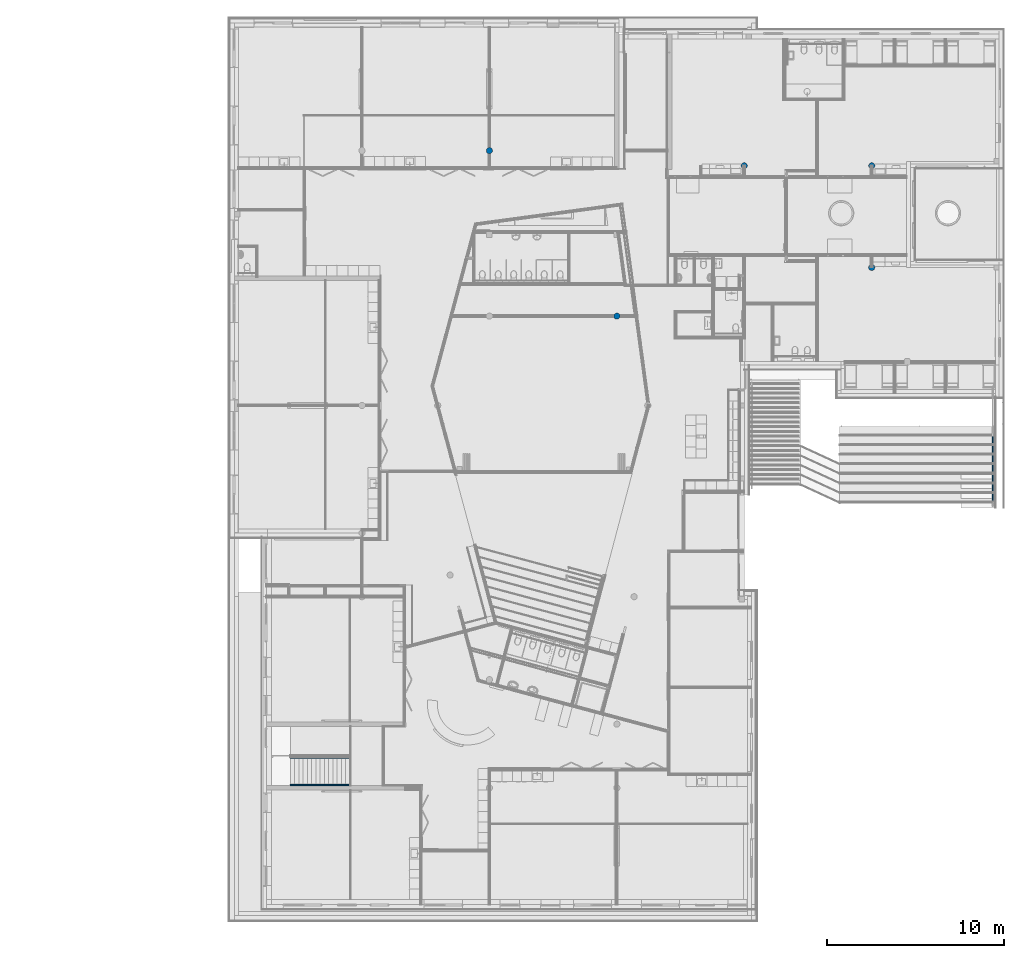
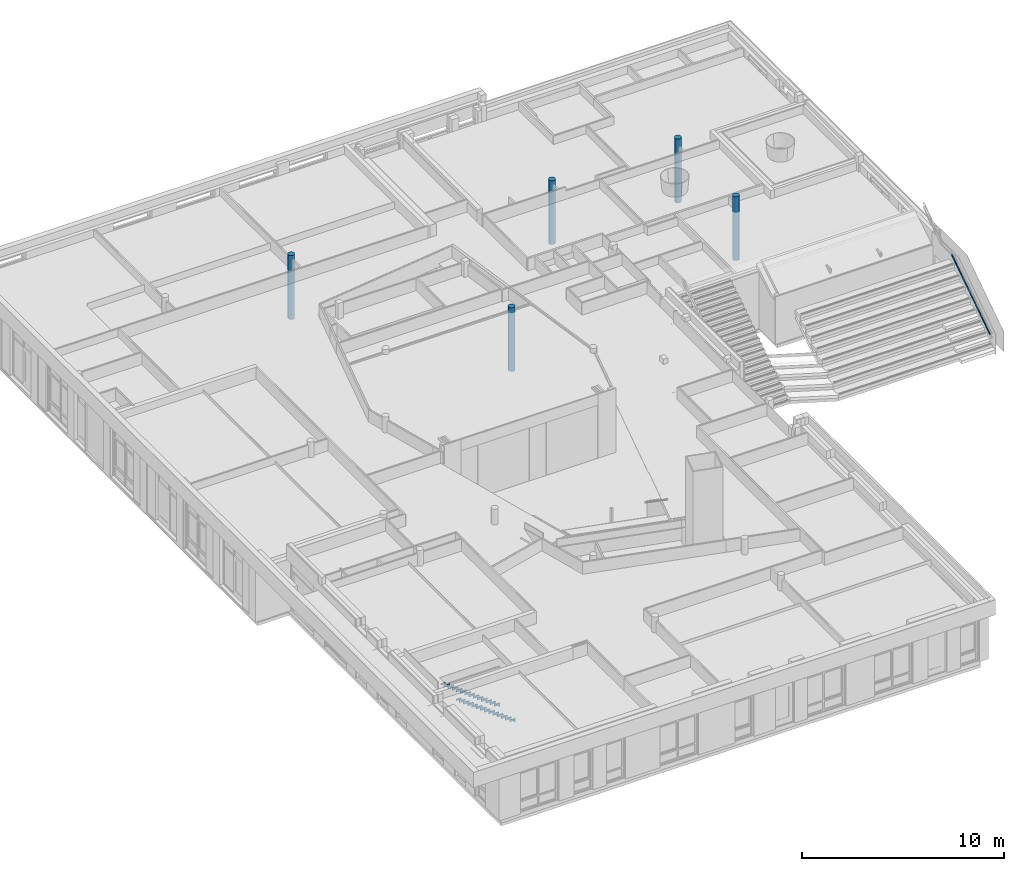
# One storey, part 7 of 167: 5 columns, 3 members, 2 elements without a shape of their own.
"""IFC2X3 building model written with IfcOpenShell, lengths in millimetres."""

from ifc_helpers import new_model, entity, si_unit, converted_unit, derived_unit, money_unit, direction, frame, origin_with_axes, place, context, subcontext, project, spatial, faceted_brep, material, type_object, element, aggregate, save


model = new_model("IFC2X3")

# Units and contexts
model_context = context("Model", 3, precision=0.01, world=origin_with_axes(), true_north=direction((0.0, 1.0)))
plan_context = context("Plan", 3, precision=0.01, world=origin_with_axes(), true_north=direction((0.0, 1.0)))
body_context = subcontext(model_context, "Body", "Model", "MODEL_VIEW")
ifc_project = project(units=[si_unit("LENGTHUNIT", "METRE", prefix="MILLI"), si_unit("AREAUNIT", "SQUARE_METRE"), si_unit("VOLUMEUNIT", "CUBIC_METRE"), converted_unit("PLANEANGLEUNIT", "DEGREE", entity("IfcPlaneAngleMeasure", 0.0174532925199), si_unit("PLANEANGLEUNIT", "RADIAN"), dimensions=[0, 0, 0, 0, 0, 0, 0]), si_unit("SOLIDANGLEUNIT", "STERADIAN"), money_unit("EUR"), converted_unit("TIMEUNIT", "Year", entity("IfcTimeMeasure", 31556926.0), si_unit("TIMEUNIT", "SECOND"), dimensions=[0, 0, 1, 0, 0, 0, 0]), si_unit("MASSUNIT", "GRAM", prefix="KILO"), si_unit("THERMODYNAMICTEMPERATUREUNIT", "DEGREE_CELSIUS"), si_unit("LUMINOUSINTENSITYUNIT", "LUMEN"), si_unit("ENERGYUNIT", "JOULE", prefix="MEGA"), derived_unit("THERMALCONDUCTANCEUNIT", [(si_unit("POWERUNIT", "WATT"), 1), (si_unit("LENGTHUNIT", "METRE"), -1), (si_unit("THERMODYNAMICTEMPERATUREUNIT", "KELVIN"), -1)]), derived_unit("SPECIFICHEATCAPACITYUNIT", [(si_unit("ENERGYUNIT", "JOULE"), 1), (si_unit("MASSUNIT", "GRAM", prefix="KILO"), -1), (si_unit("THERMODYNAMICTEMPERATUREUNIT", "KELVIN"), -1)]), derived_unit("MASSDENSITYUNIT", [(si_unit("MASSUNIT", "GRAM", prefix="KILO"), 1), (si_unit("VOLUMEUNIT", "CUBIC_METRE"), -1)])], contexts=[model_context, plan_context])

# Site, building, storey
site_placement = place(None, origin_with_axes())
site = spatial("IfcSite", under=ifc_project, at=site_placement, Name="Site", CompositionType="ELEMENT")
building_placement = place(site_placement, origin_with_axes())
building = spatial("IfcBuilding", under=site, at=building_placement, Name="Naam gebouw", CompositionType="ELEMENT")
storey_placement = place(building_placement, origin_with_axes())
storey = spatial("IfcBuildingStorey", under=building, at=storey_placement, Name="Begane grond", CompositionType="ELEMENT", Elevation=0.0)

# Columns
ifc_material_1 = material(Name="Beton gewapend C")
column_type = type_object("IfcColumnType", Name="Beton gewapend C D350", PredefinedType="COLUMN")
column_1_placement = place(storey_placement, frame((36000.0, 42350.0000021, -100.0), z_axis=(0.0, 0.0, 1.0), x_axis=(1.0, 0.0, 0.0)))
element("IfcColumn", 1, at=column_1_placement, inside=storey, type_object=column_type, material=ifc_material_1, Name="28_Kolom_Kolom-x", ObjectType="COLUMN", context=body_context, shape_type="Brep", body=[
    faceted_brep([(-175.0, 0.0, 3860.0), (-175.0, 0.0, 0.0), (-171.637424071, -34.1408063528, 0.0), (-171.637424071, -34.1408063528, 3860.0), (-171.637424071, 34.1408063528, 3860.0), (-171.637424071, 34.1408063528, 0.0), (-161.678918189, 66.9696006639, 0.0), (-145.507182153, 97.2247907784, 0.0), (-123.743686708, 123.743686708, 0.0), (-97.2247907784, 145.507182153, 0.0), (-66.9696006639, 161.678918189, 0.0), (-34.1408063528, 171.637424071, 0.0), (0.0, 175.0, 0.0), (34.1408063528, 171.637424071, 0.0), (66.9696006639, 161.678918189, 0.0), (97.2247907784, 145.507182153, 0.0), (123.743686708, 123.743686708, 0.0), (145.507182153, 97.2247907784, 0.0), (161.678918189, 66.9696006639, 0.0), (171.637424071, 34.1408063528, 0.0), (175.0, 0.0, 0.0), (171.637424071, -34.1408063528, 0.0), (161.678918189, -66.9696006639, 0.0), (145.507182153, -97.2247907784, 0.0), (123.743686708, -123.743686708, 0.0), (97.2247907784, -145.507182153, 0.0), (66.9696006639, -161.678918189, 0.0), (34.1408063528, -171.637424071, 0.0), (0.0, -175.0, 0.0), (-34.1408063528, -171.637424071, 0.0), (-66.9696006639, -161.678918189, 0.0), (-97.2247907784, -145.507182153, 0.0), (-123.743686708, -123.743686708, 0.0), (-145.507182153, -97.2247907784, 0.0), (-161.678918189, -66.9696006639, 0.0), (-161.678918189, -66.9696006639, 3860.0), (-145.507182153, -97.2247907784, 3860.0), (-123.743686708, -123.743686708, 3860.0), (-97.2247907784, -145.507182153, 3860.0), (-66.9696006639, -161.678918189, 3860.0), (-34.1408063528, -171.637424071, 3860.0), (0.0, -175.0, 3860.0), (34.1408063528, -171.637424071, 3860.0), (66.9696006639, -161.678918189, 3860.0), (97.2247907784, -145.507182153, 3860.0), (123.743686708, -123.743686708, 3860.0), (145.507182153, -97.2247907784, 3860.0), (161.678918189, -66.9696006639, 3860.0), (171.637424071, -34.1408063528, 3860.0), (175.0, 0.0, 3860.0), (171.637424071, 34.1408063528, 3860.0), (161.678918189, 66.9696006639, 3860.0), (145.507182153, 97.2247907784, 3860.0), (123.743686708, 123.743686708, 3860.0), (97.2247907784, 145.507182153, 3860.0), (66.9696006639, 161.678918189, 3860.0), (34.1408063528, 171.637424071, 3860.0), (0.0, 175.0, 3860.0), (-34.1408063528, 171.637424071, 3860.0), (-66.9696006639, 161.678918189, 3860.0), (-97.2247907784, 145.507182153, 3860.0), (-123.743686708, 123.743686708, 3860.0), (-145.507182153, 97.2247907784, 3860.0), (-161.678918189, 66.9696006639, 3860.0)], [[[0, 1, 2, 3]], [[4, 5, 1, 0]], [[2, 1, 5, 6, 7, 8, 9, 10, 11, 12, 13, 14, 15, 16, 17, 18, 19, 20, 21, 22, 23, 24, 25, 26, 27, 28, 29, 30, 31, 32, 33, 34]], [[3, 2, 34, 35]], [[4, 0, 3, 35, 36, 37, 38, 39, 40, 41, 42, 43, 44, 45, 46, 47, 48, 49, 50, 51, 52, 53, 54, 55, 56, 57, 58, 59, 60, 61, 62, 63]], [[63, 6, 5, 4]], [[62, 7, 6, 63]], [[61, 8, 7, 62]], [[60, 9, 8, 61]], [[59, 10, 9, 60]], [[58, 11, 10, 59]], [[57, 12, 11, 58]], [[56, 13, 12, 57]], [[55, 14, 13, 56]], [[54, 15, 14, 55]], [[53, 16, 15, 54]], [[52, 17, 16, 53]], [[51, 18, 17, 52]], [[50, 19, 18, 51]], [[49, 20, 19, 50]], [[48, 21, 20, 49]], [[47, 22, 21, 48]], [[46, 23, 22, 47]], [[45, 24, 23, 46]], [[44, 25, 24, 45]], [[43, 26, 25, 44]], [[42, 27, 26, 43]], [[41, 28, 27, 42]], [[40, 29, 28, 41]], [[39, 30, 29, 40]], [[38, 31, 30, 39]], [[37, 32, 31, 38]], [[36, 33, 32, 37]], [[35, 34, 33, 36]]]),
])
column_2_placement = place(storey_placement, frame((36000.0, 36600.0000021, -100.0), z_axis=(0.0, 0.0, 1.0), x_axis=(1.0, 0.0, 0.0)))
element("IfcColumn", 2, at=column_2_placement, inside=storey, type_object=column_type, material=ifc_material_1, Name="28_Kolom_Kolom-x", ObjectType="COLUMN", context=body_context, shape_type="Brep", body=[
    faceted_brep([(-175.0, 0.0, 3860.0), (-175.0, 0.0, 0.0), (-171.637424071, -34.1408063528, 0.0), (-171.637424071, -34.1408063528, 3860.0), (-171.637424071, 34.1408063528, 3860.0), (-171.637424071, 34.1408063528, 0.0), (-161.678918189, 66.9696006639, 0.0), (-145.507182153, 97.2247907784, 0.0), (-123.743686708, 123.743686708, 0.0), (-97.2247907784, 145.507182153, 0.0), (-66.9696006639, 161.678918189, 0.0), (-34.1408063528, 171.637424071, 0.0), (0.0, 175.0, 0.0), (34.1408063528, 171.637424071, 0.0), (66.9696006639, 161.678918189, 0.0), (97.2247907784, 145.507182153, 0.0), (123.743686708, 123.743686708, 0.0), (145.507182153, 97.2247907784, 0.0), (161.678918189, 66.9696006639, 0.0), (171.637424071, 34.1408063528, 0.0), (175.0, 0.0, 0.0), (171.637424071, -34.1408063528, 0.0), (161.678918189, -66.9696006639, 0.0), (145.507182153, -97.2247907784, 0.0), (123.743686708, -123.743686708, 0.0), (97.2247907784, -145.507182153, 0.0), (66.9696006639, -161.678918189, 0.0), (34.1408063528, -171.637424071, 0.0), (0.0, -175.0, 0.0), (-34.1408063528, -171.637424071, 0.0), (-66.9696006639, -161.678918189, 0.0), (-97.2247907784, -145.507182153, 0.0), (-123.743686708, -123.743686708, 0.0), (-145.507182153, -97.2247907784, 0.0), (-161.678918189, -66.9696006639, 0.0), (-161.678918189, -66.9696006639, 3860.0), (-145.507182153, -97.2247907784, 3860.0), (-123.743686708, -123.743686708, 3860.0), (-97.2247907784, -145.507182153, 3860.0), (-66.9696006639, -161.678918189, 3860.0), (-34.1408063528, -171.637424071, 3860.0), (0.0, -175.0, 3860.0), (34.1408063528, -171.637424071, 3860.0), (66.9696006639, -161.678918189, 3860.0), (97.2247907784, -145.507182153, 3860.0), (123.743686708, -123.743686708, 3860.0), (145.507182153, -97.2247907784, 3860.0), (161.678918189, -66.9696006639, 3860.0), (171.637424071, -34.1408063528, 3860.0), (175.0, 0.0, 3860.0), (171.637424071, 34.1408063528, 3860.0), (161.678918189, 66.9696006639, 3860.0), (145.507182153, 97.2247907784, 3860.0), (123.743686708, 123.743686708, 3860.0), (97.2247907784, 145.507182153, 3860.0), (66.9696006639, 161.678918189, 3860.0), (34.1408063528, 171.637424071, 3860.0), (0.0, 175.0, 3860.0), (-34.1408063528, 171.637424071, 3860.0), (-66.9696006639, 161.678918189, 3860.0), (-97.2247907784, 145.507182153, 3860.0), (-123.743686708, 123.743686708, 3860.0), (-145.507182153, 97.2247907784, 3860.0), (-161.678918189, 66.9696006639, 3860.0)], [[[0, 1, 2, 3]], [[4, 5, 1, 0]], [[2, 1, 5, 6, 7, 8, 9, 10, 11, 12, 13, 14, 15, 16, 17, 18, 19, 20, 21, 22, 23, 24, 25, 26, 27, 28, 29, 30, 31, 32, 33, 34]], [[3, 2, 34, 35]], [[4, 0, 3, 35, 36, 37, 38, 39, 40, 41, 42, 43, 44, 45, 46, 47, 48, 49, 50, 51, 52, 53, 54, 55, 56, 57, 58, 59, 60, 61, 62, 63]], [[63, 6, 5, 4]], [[62, 7, 6, 63]], [[61, 8, 7, 62]], [[60, 9, 8, 61]], [[59, 10, 9, 60]], [[58, 11, 10, 59]], [[57, 12, 11, 58]], [[56, 13, 12, 57]], [[55, 14, 13, 56]], [[54, 15, 14, 55]], [[53, 16, 15, 54]], [[52, 17, 16, 53]], [[51, 18, 17, 52]], [[50, 19, 18, 51]], [[49, 20, 19, 50]], [[48, 21, 20, 49]], [[47, 22, 21, 48]], [[46, 23, 22, 47]], [[45, 24, 23, 46]], [[44, 25, 24, 45]], [[43, 26, 25, 44]], [[42, 27, 26, 43]], [[41, 28, 27, 42]], [[40, 29, 28, 41]], [[39, 30, 29, 40]], [[38, 31, 30, 39]], [[37, 32, 31, 38]], [[36, 33, 32, 37]], [[35, 34, 33, 36]]]),
])
column_3_placement = place(storey_placement, frame((28800.0, 42350.0, -100.0), z_axis=(0.0, 0.0, 1.0), x_axis=(1.0, 0.0, 0.0)))
element("IfcColumn", 3, at=column_3_placement, inside=storey, type_object=column_type, material=ifc_material_1, Name="28_Kolom_Kolom-x", ObjectType="COLUMN", context=body_context, shape_type="Brep", body=[
    faceted_brep([(-175.0, 0.0, 3860.0), (-175.0, 0.0, 0.0), (-171.637424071, -34.1408063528, 0.0), (-171.637424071, -34.1408063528, 3860.0), (-171.637424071, 34.1408063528, 3860.0), (-171.637424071, 34.1408063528, 0.0), (-161.678918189, 66.9696006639, 0.0), (-145.507182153, 97.2247907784, 0.0), (-123.743686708, 123.743686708, 0.0), (-97.2247907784, 145.507182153, 0.0), (-66.9696006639, 161.678918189, 0.0), (-34.1408063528, 171.637424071, 0.0), (0.0, 175.0, 0.0), (34.1408063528, 171.637424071, 0.0), (66.9696006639, 161.678918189, 0.0), (97.2247907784, 145.507182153, 0.0), (123.743686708, 123.743686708, 0.0), (145.507182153, 97.2247907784, 0.0), (161.678918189, 66.9696006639, 0.0), (171.637424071, 34.1408063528, 0.0), (175.0, 0.0, 0.0), (171.637424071, -34.1408063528, 0.0), (161.678918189, -66.9696006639, 0.0), (145.507182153, -97.2247907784, 0.0), (123.743686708, -123.743686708, 0.0), (97.2247907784, -145.507182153, 0.0), (66.9696006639, -161.678918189, 0.0), (34.1408063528, -171.637424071, 0.0), (0.0, -175.0, 0.0), (-34.1408063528, -171.637424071, 0.0), (-66.9696006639, -161.678918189, 0.0), (-97.2247907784, -145.507182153, 0.0), (-123.743686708, -123.743686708, 0.0), (-145.507182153, -97.2247907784, 0.0), (-161.678918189, -66.9696006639, 0.0), (-161.678918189, -66.9696006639, 3860.0), (-145.507182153, -97.2247907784, 3860.0), (-123.743686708, -123.743686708, 3860.0), (-97.2247907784, -145.507182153, 3860.0), (-66.9696006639, -161.678918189, 3860.0), (-34.1408063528, -171.637424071, 3860.0), (0.0, -175.0, 3860.0), (34.1408063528, -171.637424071, 3860.0), (66.9696006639, -161.678918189, 3860.0), (97.2247907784, -145.507182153, 3860.0), (123.743686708, -123.743686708, 3860.0), (145.507182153, -97.2247907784, 3860.0), (161.678918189, -66.9696006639, 3860.0), (171.637424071, -34.1408063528, 3860.0), (175.0, 0.0, 3860.0), (171.637424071, 34.1408063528, 3860.0), (161.678918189, 66.9696006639, 3860.0), (145.507182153, 97.2247907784, 3860.0), (123.743686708, 123.743686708, 3860.0), (97.2247907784, 145.507182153, 3860.0), (66.9696006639, 161.678918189, 3860.0), (34.1408063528, 171.637424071, 3860.0), (0.0, 175.0, 3860.0), (-34.1408063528, 171.637424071, 3860.0), (-66.9696006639, 161.678918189, 3860.0), (-97.2247907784, 145.507182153, 3860.0), (-123.743686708, 123.743686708, 3860.0), (-145.507182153, 97.2247907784, 3860.0), (-161.678918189, 66.9696006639, 3860.0)], [[[0, 1, 2, 3]], [[4, 5, 1, 0]], [[2, 1, 5, 6, 7, 8, 9, 10, 11, 12, 13, 14, 15, 16, 17, 18, 19, 20, 21, 22, 23, 24, 25, 26, 27, 28, 29, 30, 31, 32, 33, 34]], [[3, 2, 34, 35]], [[4, 0, 3, 35, 36, 37, 38, 39, 40, 41, 42, 43, 44, 45, 46, 47, 48, 49, 50, 51, 52, 53, 54, 55, 56, 57, 58, 59, 60, 61, 62, 63]], [[63, 6, 5, 4]], [[62, 7, 6, 63]], [[61, 8, 7, 62]], [[60, 9, 8, 61]], [[59, 10, 9, 60]], [[58, 11, 10, 59]], [[57, 12, 11, 58]], [[56, 13, 12, 57]], [[55, 14, 13, 56]], [[54, 15, 14, 55]], [[53, 16, 15, 54]], [[52, 17, 16, 53]], [[51, 18, 17, 52]], [[50, 19, 18, 51]], [[49, 20, 19, 50]], [[48, 21, 20, 49]], [[47, 22, 21, 48]], [[46, 23, 22, 47]], [[45, 24, 23, 46]], [[44, 25, 24, 45]], [[43, 26, 25, 44]], [[42, 27, 26, 43]], [[41, 28, 27, 42]], [[40, 29, 28, 41]], [[39, 30, 29, 40]], [[38, 31, 30, 39]], [[37, 32, 31, 38]], [[36, 33, 32, 37]], [[35, 34, 33, 36]]]),
])
column_4_placement = place(storey_placement, frame((14400.0, 43200.0, -100.0), z_axis=(0.0, 0.0, 1.0), x_axis=(1.0, 0.0, 0.0)))
element("IfcColumn", 4, at=column_4_placement, inside=storey, type_object=column_type, material=ifc_material_1, Name="28_Kolom_Kolom-x", ObjectType="COLUMN", context=body_context, shape_type="Brep", body=[
    faceted_brep([(-175.0, 0.0, 3860.0), (-175.0, 0.0, 0.0), (-171.637424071, -34.1408063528, 0.0), (-171.637424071, -34.1408063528, 3860.0), (-171.637424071, 34.1408063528, 3860.0), (-171.637424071, 34.1408063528, 0.0), (-161.678918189, 66.9696006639, 0.0), (-145.507182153, 97.2247907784, 0.0), (-123.743686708, 123.743686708, 0.0), (-97.2247907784, 145.507182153, 0.0), (-66.9696006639, 161.678918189, 0.0), (-34.1408063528, 171.637424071, 0.0), (0.0, 175.0, 0.0), (34.1408063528, 171.637424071, 0.0), (66.9696006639, 161.678918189, 0.0), (97.2247907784, 145.507182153, 0.0), (123.743686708, 123.743686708, 0.0), (145.507182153, 97.2247907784, 0.0), (161.678918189, 66.9696006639, 0.0), (171.637424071, 34.1408063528, 0.0), (175.0, 0.0, 0.0), (171.637424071, -34.1408063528, 0.0), (161.678918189, -66.9696006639, 0.0), (145.507182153, -97.2247907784, 0.0), (123.743686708, -123.743686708, 0.0), (97.2247907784, -145.507182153, 0.0), (66.9696006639, -161.678918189, 0.0), (34.1408063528, -171.637424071, 0.0), (0.0, -175.0, 0.0), (-34.1408063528, -171.637424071, 0.0), (-66.9696006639, -161.678918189, 0.0), (-97.2247907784, -145.507182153, 0.0), (-123.743686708, -123.743686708, 0.0), (-145.507182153, -97.2247907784, 0.0), (-161.678918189, -66.9696006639, 0.0), (-161.678918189, -66.9696006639, 3860.0), (-145.507182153, -97.2247907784, 3860.0), (-123.743686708, -123.743686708, 3860.0), (-97.2247907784, -145.507182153, 3860.0), (-66.9696006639, -161.678918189, 3860.0), (-34.1408063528, -171.637424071, 3860.0), (0.0, -175.0, 3860.0), (34.1408063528, -171.637424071, 3860.0), (66.9696006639, -161.678918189, 3860.0), (97.2247907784, -145.507182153, 3860.0), (123.743686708, -123.743686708, 3860.0), (145.507182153, -97.2247907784, 3860.0), (161.678918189, -66.9696006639, 3860.0), (171.637424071, -34.1408063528, 3860.0), (175.0, 0.0, 3860.0), (171.637424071, 34.1408063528, 3860.0), (161.678918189, 66.9696006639, 3860.0), (145.507182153, 97.2247907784, 3860.0), (123.743686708, 123.743686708, 3860.0), (97.2247907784, 145.507182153, 3860.0), (66.9696006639, 161.678918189, 3860.0), (34.1408063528, 171.637424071, 3860.0), (0.0, 175.0, 3860.0), (-34.1408063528, 171.637424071, 3860.0), (-66.9696006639, 161.678918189, 3860.0), (-97.2247907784, 145.507182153, 3860.0), (-123.743686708, 123.743686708, 3860.0), (-145.507182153, 97.2247907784, 3860.0), (-161.678918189, 66.9696006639, 3860.0)], [[[0, 1, 2, 3]], [[4, 5, 1, 0]], [[2, 1, 5, 6, 7, 8, 9, 10, 11, 12, 13, 14, 15, 16, 17, 18, 19, 20, 21, 22, 23, 24, 25, 26, 27, 28, 29, 30, 31, 32, 33, 34]], [[3, 2, 34, 35]], [[4, 0, 3, 35, 36, 37, 38, 39, 40, 41, 42, 43, 44, 45, 46, 47, 48, 49, 50, 51, 52, 53, 54, 55, 56, 57, 58, 59, 60, 61, 62, 63]], [[63, 6, 5, 4]], [[62, 7, 6, 63]], [[61, 8, 7, 62]], [[60, 9, 8, 61]], [[59, 10, 9, 60]], [[58, 11, 10, 59]], [[57, 12, 11, 58]], [[56, 13, 12, 57]], [[55, 14, 13, 56]], [[54, 15, 14, 55]], [[53, 16, 15, 54]], [[52, 17, 16, 53]], [[51, 18, 17, 52]], [[50, 19, 18, 51]], [[49, 20, 19, 50]], [[48, 21, 20, 49]], [[47, 22, 21, 48]], [[46, 23, 22, 47]], [[45, 24, 23, 46]], [[44, 25, 24, 45]], [[43, 26, 25, 44]], [[42, 27, 26, 43]], [[41, 28, 27, 42]], [[40, 29, 28, 41]], [[39, 30, 29, 40]], [[38, 31, 30, 39]], [[37, 32, 31, 38]], [[36, 33, 32, 37]], [[35, 34, 33, 36]]]),
])
column_5_placement = place(storey_placement, frame((21600.0, 33851.6966009, -100.0), z_axis=(0.0, 0.0, 1.0), x_axis=(1.0, 0.0, 0.0)))
element("IfcColumn", 5, at=column_5_placement, inside=storey, type_object=column_type, material=ifc_material_1, Name="28_Kolom_Kolom-x", ObjectType="COLUMN", context=body_context, shape_type="Brep", body=[
    faceted_brep([(-175.0, 0.0, 3860.0), (-175.0, 0.0, 0.0), (-171.637424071, -34.1408063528, 0.0), (-171.637424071, -34.1408063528, 3860.0), (-171.637424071, 34.1408063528, 3860.0), (-171.637424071, 34.1408063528, 0.0), (-161.678918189, 66.9696006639, 0.0), (-145.507182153, 97.2247907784, 0.0), (-123.743686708, 123.743686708, 0.0), (-97.2247907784, 145.507182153, 0.0), (-66.9696006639, 161.678918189, 0.0), (-34.1408063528, 171.637424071, 0.0), (0.0, 175.0, 0.0), (34.1408063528, 171.637424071, 0.0), (66.9696006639, 161.678918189, 0.0), (97.2247907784, 145.507182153, 0.0), (123.743686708, 123.743686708, 0.0), (145.507182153, 97.2247907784, 0.0), (161.678918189, 66.9696006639, 0.0), (171.637424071, 34.1408063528, 0.0), (175.0, 0.0, 0.0), (171.637424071, -34.1408063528, 0.0), (161.678918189, -66.9696006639, 0.0), (145.507182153, -97.2247907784, 0.0), (123.743686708, -123.743686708, 0.0), (97.2247907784, -145.507182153, 0.0), (66.9696006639, -161.678918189, 0.0), (34.1408063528, -171.637424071, 0.0), (0.0, -175.0, 0.0), (-34.1408063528, -171.637424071, 0.0), (-66.9696006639, -161.678918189, 0.0), (-97.2247907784, -145.507182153, 0.0), (-123.743686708, -123.743686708, 0.0), (-145.507182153, -97.2247907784, 0.0), (-161.678918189, -66.9696006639, 0.0), (-161.678918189, -66.9696006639, 3860.0), (-145.507182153, -97.2247907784, 3860.0), (-123.743686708, -123.743686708, 3860.0), (-97.2247907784, -145.507182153, 3860.0), (-66.9696006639, -161.678918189, 3860.0), (-34.1408063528, -171.637424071, 3860.0), (0.0, -175.0, 3860.0), (34.1408063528, -171.637424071, 3860.0), (66.9696006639, -161.678918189, 3860.0), (97.2247907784, -145.507182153, 3860.0), (123.743686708, -123.743686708, 3860.0), (145.507182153, -97.2247907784, 3860.0), (161.678918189, -66.9696006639, 3860.0), (171.637424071, -34.1408063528, 3860.0), (175.0, 0.0, 3860.0), (171.637424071, 34.1408063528, 3860.0), (161.678918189, 66.9696006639, 3860.0), (145.507182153, 97.2247907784, 3860.0), (123.743686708, 123.743686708, 3860.0), (97.2247907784, 145.507182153, 3860.0), (66.9696006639, 161.678918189, 3860.0), (34.1408063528, 171.637424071, 3860.0), (0.0, 175.0, 3860.0), (-34.1408063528, 171.637424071, 3860.0), (-66.9696006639, 161.678918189, 3860.0), (-97.2247907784, 145.507182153, 3860.0), (-123.743686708, 123.743686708, 3860.0), (-145.507182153, 97.2247907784, 3860.0), (-161.678918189, 66.9696006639, 3860.0)], [[[0, 1, 2, 3]], [[4, 5, 1, 0]], [[2, 1, 5, 6, 7, 8, 9, 10, 11, 12, 13, 14, 15, 16, 17, 18, 19, 20, 21, 22, 23, 24, 25, 26, 27, 28, 29, 30, 31, 32, 33, 34]], [[3, 2, 34, 35]], [[4, 0, 3, 35, 36, 37, 38, 39, 40, 41, 42, 43, 44, 45, 46, 47, 48, 49, 50, 51, 52, 53, 54, 55, 56, 57, 58, 59, 60, 61, 62, 63]], [[63, 6, 5, 4]], [[62, 7, 6, 63]], [[61, 8, 7, 62]], [[60, 9, 8, 61]], [[59, 10, 9, 60]], [[58, 11, 10, 59]], [[57, 12, 11, 58]], [[56, 13, 12, 57]], [[55, 14, 13, 56]], [[54, 15, 14, 55]], [[53, 16, 15, 54]], [[52, 17, 16, 53]], [[51, 18, 17, 52]], [[50, 19, 18, 51]], [[49, 20, 19, 50]], [[48, 21, 20, 49]], [[47, 22, 21, 48]], [[46, 23, 22, 47]], [[45, 24, 23, 46]], [[44, 25, 24, 45]], [[43, 26, 25, 44]], [[42, 27, 26, 43]], [[41, 28, 27, 42]], [[40, 29, 28, 41]], [[39, 30, 29, 40]], [[38, 31, 30, 39]], [[37, 32, 31, 38]], [[36, 33, 32, 37]], [[35, 34, 33, 36]]]),
])

# Stair, members
stair_placement = place(storey_placement, frame((6510.55541843, 7393.0, 0.0), z_axis=(0.0, 0.0, 1.0), x_axis=(1.0, 0.0, 0.0)))
stair = element("IfcStair", 6, at=stair_placement, inside=storey, Name="24_Trap_Trap-x", ShapeType="NOTDEFINED")
ifc_material_2 = material(Name="Metaal - Staal C")
member_type_1 = type_object("IfcMemberType", Name="IfcMember", PredefinedType="NOTDEFINED")
member_1_placement = place(stair_placement, origin_with_axes())
member_1 = element("IfcMember", 7, at=member_1_placement, type_object=member_type_1, material=ifc_material_2, Name="_Trap - constructie_Trapconstructie-x", context=body_context, shape_type="Brep", body=[
    faceted_brep([(0.0, -60.0, 198.0), (0.0, 0.0, 198.0), (-222.0, 0.0, 198.0), (-222.0, -60.0, 198.0), (0.0, 0.0, 0.0), (0.0, -60.0, 0.0), (-82.0, 0.0, 0.0), (-82.0, 0.0, 98.0), (-322.0, 0.0, 98.0), (-322.0, 0.0, 278.0), (-562.0, 0.0, 278.0), (-562.0, 0.0, 458.0), (-802.0, 0.0, 458.0), (-802.0, 0.0, 638.0), (-1042.0, 0.0, 638.0), (-1042.0, 0.0, 818.0), (-1282.0, 0.0, 818.0), (-1282.0, 0.0, 998.0), (-1522.0, 0.0, 998.0), (-1522.0, 0.0, 1178.0), (-1762.0, 0.0, 1178.0), (-1762.0, 0.0, 1358.0), (-2002.0, 0.0, 1358.0), (-2002.0, 0.0, 1538.0), (-2242.0, 0.0, 1538.0), (-2242.0, 0.0, 1718.0), (-2482.0, 0.0, 1718.0), (-2482.0, 0.0, 1898.0), (-2722.0, 0.0, 1898.0), (-2722.0, 0.0, 2078.0), (-2962.0, 0.0, 2078.0), (-2962.0, 0.0, 2258.0), (-3202.0, 0.0, 2258.0), (-3202.0, 0.0, 2438.0), (-3360.0, 0.0, 2438.0), (-3360.0, 0.0, 2520.0), (-3102.0, 0.0, 2520.0), (-3102.0, 0.0, 2358.0), (-2862.0, 0.0, 2358.0), (-2862.0, 0.0, 2178.0), (-2622.0, 0.0, 2178.0), (-2622.0, 0.0, 1998.0), (-2382.0, 0.0, 1998.0), (-2382.0, 0.0, 1818.0), (-2142.0, 0.0, 1818.0), (-2142.0, 0.0, 1638.0), (-1902.0, 0.0, 1638.0), (-1902.0, 0.0, 1458.0), (-1662.0, 0.0, 1458.0), (-1662.0, 0.0, 1278.0), (-1422.0, 0.0, 1278.0), (-1422.0, 0.0, 1098.0), (-1182.0, 0.0, 1098.0), (-1182.0, 0.0, 918.0), (-942.0, 0.0, 918.0), (-942.0, 0.0, 738.0), (-702.0, 0.0, 738.0), (-702.0, 0.0, 558.0), (-462.0, 0.0, 558.0), (-462.0, 0.0, 378.0), (-222.0, 0.0, 378.0), (-222.0, -60.0, 378.0), (-462.0, -60.0, 378.0), (-462.0, -60.0, 558.0), (-702.0, -60.0, 558.0), (-702.0, -60.0, 738.0), (-942.0, -60.0, 738.0), (-942.0, -60.0, 918.0), (-1182.0, -60.0, 918.0), (-1182.0, -60.0, 1098.0), (-1422.0, -60.0, 1098.0), (-1422.0, -60.0, 1278.0), (-1662.0, -60.0, 1278.0), (-1662.0, -60.0, 1458.0), (-1902.0, -60.0, 1458.0), (-1902.0, -60.0, 1638.0), (-2142.0, -60.0, 1638.0), (-2142.0, -60.0, 1818.0), (-2382.0, -60.0, 1818.0), (-2382.0, -60.0, 1998.0), (-2622.0, -60.0, 1998.0), (-2622.0, -60.0, 2178.0), (-2862.0, -60.0, 2178.0), (-2862.0, -60.0, 2358.0), (-3102.0, -60.0, 2358.0), (-3102.0, -60.0, 2520.0), (-3360.0, -60.0, 2520.0), (-3360.0, -60.0, 2438.0), (-3202.0, -60.0, 2438.0), (-3202.0, -60.0, 2258.0), (-2962.0, -60.0, 2258.0), (-2962.0, -60.0, 2078.0), (-2722.0, -60.0, 2078.0), (-2722.0, -60.0, 1898.0), (-2482.0, -60.0, 1898.0), (-2482.0, -60.0, 1718.0), (-2242.0, -60.0, 1718.0), (-2242.0, -60.0, 1538.0), (-2002.0, -60.0, 1538.0), (-2002.0, -60.0, 1358.0), (-1762.0, -60.0, 1358.0), (-1762.0, -60.0, 1178.0), (-1522.0, -60.0, 1178.0), (-1522.0, -60.0, 998.0), (-1282.0, -60.0, 998.0), (-1282.0, -60.0, 818.0), (-1042.0, -60.0, 818.0), (-1042.0, -60.0, 638.0), (-802.0, -60.0, 638.0), (-802.0, -60.0, 458.0), (-562.0, -60.0, 458.0), (-562.0, -60.0, 278.0), (-322.0, -60.0, 278.0), (-322.0, -60.0, 98.0), (-82.0, -60.0, 98.0), (-82.0, -60.0, 0.0)], [[[0, 1, 2, 3]], [[4, 1, 0, 5]], [[6, 7, 8, 9, 10, 11, 12, 13, 14, 15, 16, 17, 18, 19, 20, 21, 22, 23, 24, 25, 26, 27, 28, 29, 30, 31, 32, 33, 34, 35, 36, 37, 38, 39, 40, 41, 42, 43, 44, 45, 46, 47, 48, 49, 50, 51, 52, 53, 54, 55, 56, 57, 58, 59, 60, 2, 1, 4]], [[2, 60, 61, 3]], [[5, 0, 3, 61, 62, 63, 64, 65, 66, 67, 68, 69, 70, 71, 72, 73, 74, 75, 76, 77, 78, 79, 80, 81, 82, 83, 84, 85, 86, 87, 88, 89, 90, 91, 92, 93, 94, 95, 96, 97, 98, 99, 100, 101, 102, 103, 104, 105, 106, 107, 108, 109, 110, 111, 112, 113, 114, 115]], [[5, 115, 6, 4]], [[115, 114, 7, 6]], [[114, 113, 8, 7]], [[113, 112, 9, 8]], [[112, 111, 10, 9]], [[111, 110, 11, 10]], [[110, 109, 12, 11]], [[109, 108, 13, 12]], [[108, 107, 14, 13]], [[107, 106, 15, 14]], [[106, 105, 16, 15]], [[105, 104, 17, 16]], [[104, 103, 18, 17]], [[103, 102, 19, 18]], [[102, 101, 20, 19]], [[101, 100, 21, 20]], [[100, 99, 22, 21]], [[99, 98, 23, 22]], [[98, 97, 24, 23]], [[97, 96, 25, 24]], [[96, 95, 26, 25]], [[95, 94, 27, 26]], [[94, 93, 28, 27]], [[93, 92, 29, 28]], [[92, 91, 30, 29]], [[91, 90, 31, 30]], [[90, 89, 32, 31]], [[89, 88, 33, 32]], [[88, 87, 34, 33]], [[34, 87, 86, 35]], [[35, 86, 85, 36]], [[37, 36, 85, 84]], [[38, 37, 84, 83]], [[39, 38, 83, 82]], [[40, 39, 82, 81]], [[41, 40, 81, 80]], [[42, 41, 80, 79]], [[43, 42, 79, 78]], [[44, 43, 78, 77]], [[45, 44, 77, 76]], [[46, 45, 76, 75]], [[47, 46, 75, 74]], [[48, 47, 74, 73]], [[49, 48, 73, 72]], [[50, 49, 72, 71]], [[51, 50, 71, 70]], [[52, 51, 70, 69]], [[53, 52, 69, 68]], [[54, 53, 68, 67]], [[55, 54, 67, 66]], [[56, 55, 66, 65]], [[57, 56, 65, 64]], [[58, 57, 64, 63]], [[59, 58, 63, 62]], [[60, 59, 62, 61]]]),
])
member_2_placement = place(stair_placement, origin_with_axes())
member_2 = element("IfcMember", 8, at=member_2_placement, type_object=member_type_1, material=ifc_material_2, Name="_Trap - constructie_Trapconstructie-x", context=body_context, shape_type="Brep", body=[
    faceted_brep([(0.0, 1480.0, 198.0), (0.0, 1540.0, 198.0), (-222.0, 1540.0, 198.0), (-222.0, 1480.0, 198.0), (0.0, 1540.0, 0.0), (0.0, 1480.0, 0.0), (-82.0, 1540.0, 0.0), (-82.0, 1540.0, 98.0), (-322.0, 1540.0, 98.0), (-322.0, 1540.0, 278.0), (-562.0, 1540.0, 278.0), (-562.0, 1540.0, 458.0), (-802.0, 1540.0, 458.0), (-802.0, 1540.0, 638.0), (-1042.0, 1540.0, 638.0), (-1042.0, 1540.0, 818.0), (-1282.0, 1540.0, 818.0), (-1282.0, 1540.0, 998.0), (-1522.0, 1540.0, 998.0), (-1522.0, 1540.0, 1178.0), (-1762.0, 1540.0, 1178.0), (-1762.0, 1540.0, 1358.0), (-2002.0, 1540.0, 1358.0), (-2002.0, 1540.0, 1538.0), (-2242.0, 1540.0, 1538.0), (-2242.0, 1540.0, 1718.0), (-2482.0, 1540.0, 1718.0), (-2482.0, 1540.0, 1898.0), (-2722.0, 1540.0, 1898.0), (-2722.0, 1540.0, 2078.0), (-2962.0, 1540.0, 2078.0), (-2962.0, 1540.0, 2258.0), (-3202.0, 1540.0, 2258.0), (-3202.0, 1540.0, 2438.0), (-3360.0, 1540.0, 2438.0), (-3360.0, 1540.0, 2520.0), (-3102.0, 1540.0, 2520.0), (-3102.0, 1540.0, 2358.0), (-2862.0, 1540.0, 2358.0), (-2862.0, 1540.0, 2178.0), (-2622.0, 1540.0, 2178.0), (-2622.0, 1540.0, 1998.0), (-2382.0, 1540.0, 1998.0), (-2382.0, 1540.0, 1818.0), (-2142.0, 1540.0, 1818.0), (-2142.0, 1540.0, 1638.0), (-1902.0, 1540.0, 1638.0), (-1902.0, 1540.0, 1458.0), (-1662.0, 1540.0, 1458.0), (-1662.0, 1540.0, 1278.0), (-1422.0, 1540.0, 1278.0), (-1422.0, 1540.0, 1098.0), (-1182.0, 1540.0, 1098.0), (-1182.0, 1540.0, 918.0), (-942.0, 1540.0, 918.0), (-942.0, 1540.0, 738.0), (-702.0, 1540.0, 738.0), (-702.0, 1540.0, 558.0), (-462.0, 1540.0, 558.0), (-462.0, 1540.0, 378.0), (-222.0, 1540.0, 378.0), (-222.0, 1480.0, 378.0), (-462.0, 1480.0, 378.0), (-462.0, 1480.0, 558.0), (-702.0, 1480.0, 558.0), (-702.0, 1480.0, 738.0), (-942.0, 1480.0, 738.0), (-942.0, 1480.0, 918.0), (-1182.0, 1480.0, 918.0), (-1182.0, 1480.0, 1098.0), (-1422.0, 1480.0, 1098.0), (-1422.0, 1480.0, 1278.0), (-1662.0, 1480.0, 1278.0), (-1662.0, 1480.0, 1458.0), (-1902.0, 1480.0, 1458.0), (-1902.0, 1480.0, 1638.0), (-2142.0, 1480.0, 1638.0), (-2142.0, 1480.0, 1818.0), (-2382.0, 1480.0, 1818.0), (-2382.0, 1480.0, 1998.0), (-2622.0, 1480.0, 1998.0), (-2622.0, 1480.0, 2178.0), (-2862.0, 1480.0, 2178.0), (-2862.0, 1480.0, 2358.0), (-3102.0, 1480.0, 2358.0), (-3102.0, 1480.0, 2520.0), (-3360.0, 1480.0, 2520.0), (-3360.0, 1480.0, 2438.0), (-3202.0, 1480.0, 2438.0), (-3202.0, 1480.0, 2258.0), (-2962.0, 1480.0, 2258.0), (-2962.0, 1480.0, 2078.0), (-2722.0, 1480.0, 2078.0), (-2722.0, 1480.0, 1898.0), (-2482.0, 1480.0, 1898.0), (-2482.0, 1480.0, 1718.0), (-2242.0, 1480.0, 1718.0), (-2242.0, 1480.0, 1538.0), (-2002.0, 1480.0, 1538.0), (-2002.0, 1480.0, 1358.0), (-1762.0, 1480.0, 1358.0), (-1762.0, 1480.0, 1178.0), (-1522.0, 1480.0, 1178.0), (-1522.0, 1480.0, 998.0), (-1282.0, 1480.0, 998.0), (-1282.0, 1480.0, 818.0), (-1042.0, 1480.0, 818.0), (-1042.0, 1480.0, 638.0), (-802.0, 1480.0, 638.0), (-802.0, 1480.0, 458.0), (-562.0, 1480.0, 458.0), (-562.0, 1480.0, 278.0), (-322.0, 1480.0, 278.0), (-322.0, 1480.0, 98.0), (-82.0, 1480.0, 98.0), (-82.0, 1480.0, 0.0)], [[[0, 1, 2, 3]], [[4, 1, 0, 5]], [[6, 7, 8, 9, 10, 11, 12, 13, 14, 15, 16, 17, 18, 19, 20, 21, 22, 23, 24, 25, 26, 27, 28, 29, 30, 31, 32, 33, 34, 35, 36, 37, 38, 39, 40, 41, 42, 43, 44, 45, 46, 47, 48, 49, 50, 51, 52, 53, 54, 55, 56, 57, 58, 59, 60, 2, 1, 4]], [[2, 60, 61, 3]], [[5, 0, 3, 61, 62, 63, 64, 65, 66, 67, 68, 69, 70, 71, 72, 73, 74, 75, 76, 77, 78, 79, 80, 81, 82, 83, 84, 85, 86, 87, 88, 89, 90, 91, 92, 93, 94, 95, 96, 97, 98, 99, 100, 101, 102, 103, 104, 105, 106, 107, 108, 109, 110, 111, 112, 113, 114, 115]], [[5, 115, 6, 4]], [[115, 114, 7, 6]], [[114, 113, 8, 7]], [[113, 112, 9, 8]], [[112, 111, 10, 9]], [[111, 110, 11, 10]], [[110, 109, 12, 11]], [[109, 108, 13, 12]], [[108, 107, 14, 13]], [[107, 106, 15, 14]], [[106, 105, 16, 15]], [[105, 104, 17, 16]], [[104, 103, 18, 17]], [[103, 102, 19, 18]], [[102, 101, 20, 19]], [[101, 100, 21, 20]], [[100, 99, 22, 21]], [[99, 98, 23, 22]], [[98, 97, 24, 23]], [[97, 96, 25, 24]], [[96, 95, 26, 25]], [[95, 94, 27, 26]], [[94, 93, 28, 27]], [[93, 92, 29, 28]], [[92, 91, 30, 29]], [[91, 90, 31, 30]], [[90, 89, 32, 31]], [[89, 88, 33, 32]], [[88, 87, 34, 33]], [[34, 87, 86, 35]], [[35, 86, 85, 36]], [[37, 36, 85, 84]], [[38, 37, 84, 83]], [[39, 38, 83, 82]], [[40, 39, 82, 81]], [[41, 40, 81, 80]], [[42, 41, 80, 79]], [[43, 42, 79, 78]], [[44, 43, 78, 77]], [[45, 44, 77, 76]], [[46, 45, 76, 75]], [[47, 46, 75, 74]], [[48, 47, 74, 73]], [[49, 48, 73, 72]], [[50, 49, 72, 71]], [[51, 50, 71, 70]], [[52, 51, 70, 69]], [[53, 52, 69, 68]], [[54, 53, 68, 67]], [[55, 54, 67, 66]], [[56, 55, 66, 65]], [[57, 56, 65, 64]], [[58, 57, 64, 63]], [[59, 58, 63, 62]], [[60, 59, 62, 61]]]),
])
aggregate(stair, [member_1, member_2])

# Railing, member
railing_type = type_object("IfcRailingType", Name="Railing Type", PredefinedType="NOTDEFINED")
railing_placement = place(storey_placement, frame((42986.011491, 28357.8807857, 360.0), z_axis=(0.0, 0.0, 1.0), x_axis=(1.0, 0.0, 0.0)))
railing = element("IfcRailing", 9, at=railing_placement, inside=storey, type_object=railing_type, Name="34_Reling_Reling-x", PredefinedType="NOTDEFINED")
ifc_material_3 = material(Name="Metaal - RVS")
member_type_2 = type_object("IfcMemberType", Name="IfcMember", PredefinedType="USERDEFINED")
member_3_placement = place(railing_placement, frame((-150.02123964, -3176.83472822, 617.984378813), z_axis=(0.0, 0.0, 1.0), x_axis=(1.0, 0.0, 0.0)))
member_3 = element("IfcMember", 10, at=member_3_placement, type_object=member_type_2, material=ifc_material_3, Name="_Reling - regel_Handregel-x", context=body_context, shape_type="Brep", body=[
    faceted_brep([(24.9874148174, -1890.00017588, 32.0156211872), (24.9874886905, -1878.90617199, 15.3746152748), (25.0126248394, 1896.05535841, 2532.01562119), (25.0125851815, 1889.99984568, 2552.01562119), (-25.0125851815, -1889.99984294, 32.0156211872), (-25.0125113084, -1878.90583905, 15.3746152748), (15.9874480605, -1885.0078142, 24.5271685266), (15.9874554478, -1883.89841381, 22.8630679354), (-16.0125445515, -1883.89820073, 22.8630679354), (-16.0125519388, -1885.00760112, 24.5271685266), (-24.9873751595, 1896.05568586, 2532.01562119), (-24.9874148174, 1890.00017314, 2552.01562119), (16.0126030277, 1892.72488535, 2543.01562119), (-15.9873969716, 1892.72509492, 2543.01562119), (-15.9873930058, 1893.3306462, 2541.01562119), (16.0126069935, 1893.33043663, 2541.01562119)], [[[0, 1, 2, 3]], [[0, 4, 5, 1], [6, 7, 8, 9]], [[1, 10, 2]], [[3, 2, 10, 11], [12, 13, 14, 15]], [[4, 0, 3]], [[5, 4, 11, 10]], [[1, 5, 10]], [[7, 6, 12, 15]], [[8, 7, 15]], [[9, 8, 14, 13]], [[6, 9, 13]], [[4, 3, 11]], [[6, 13, 12]], [[8, 15, 14]]]),
])
aggregate(railing, [member_3])

save(model, "model.ifc")
